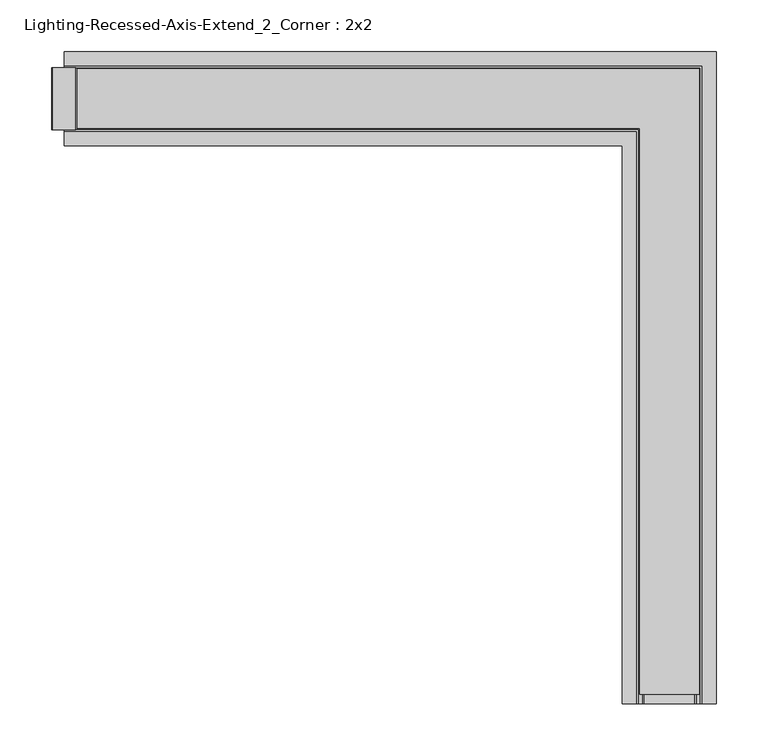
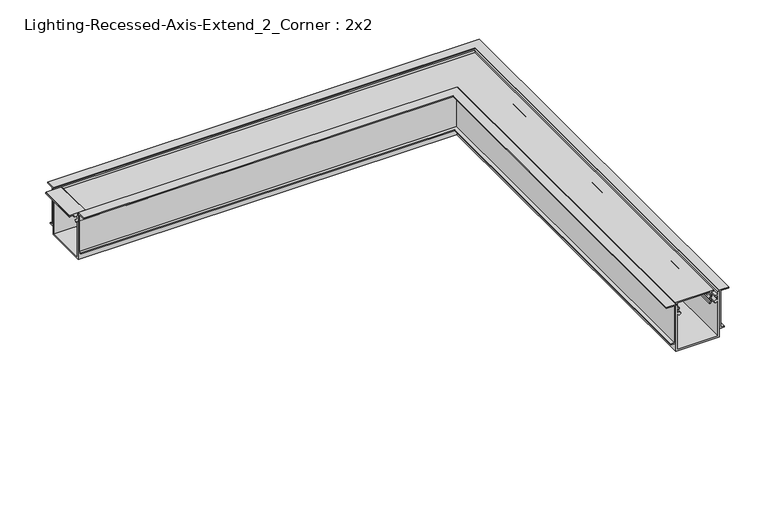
"""IFC4 building model written with IfcOpenShell, lengths in millimetres: light fixture geometry, Lighting-Recessed-Axis-Extend_2_Corner : 2x2."""

from ifc_helpers import new_model, si_unit, frame, origin, place, context, project, spatial, polyline, circle_curve, ellipse_curve, outline, extrude, faceted_brep, source, transform, mapped, element, save
from ifc_brep_helpers import plane_surface, cylinder_surface, revolved_surface, advanced_brep


def lighting_recessed_axis_extend_2_corner_2x2_85d7920b(model_context):
    return source(origin(), model_context, "Body", "SolidModel", [
        extrude(outline(polyline([(-1.1017139, -301.8536), (0.0, -302.7781437), (0.0, -325.1352563), (-1.1017139, -326.0598), (-2.57175, -326.0598), (-2.57175, -325.26605), (-1.778, -325.26605), (-1.778, -318.7954), (-4.5842019, -318.7954), (-4.5842019, -309.118), (-1.778, -309.118), (-1.778, -302.64735), (-2.57175, -302.64735), (-2.57175, -301.8536), (-1.1017139, -301.8536)])), frame((0.0, -29.972, 0.0), z_axis=(0.0, 1.0, 0.0), x_axis=(0.0, 0.0, 1.0)), (0.0, 0.0, 1.0), 59.944),
        advanced_brep(
        [(-304.8, -24.1727262, -4.8895009), (-304.8, -24.5114181, -11.3521263), (-304.8, -25.3818814, -17.9580097), (-304.8, -24.5665956, -19.4557425), (-304.8, -23.2119066, -20.6551445), (-304.8, -24.192808, -21.9831631), (-304.8, -25.7659952, -20.5903092), (-304.8, -27.1108807, -16.75974), (-304.8, -25.4753941, -12.7205342), (-304.8, -26.1394859, -10.8713211), (-304.8, -25.825992, -4.8895009), (-304.8, -28.829, -4.8895009), (-304.8, -28.829, -2.9845), (-304.8, 28.829, -2.9845), (-304.8, 28.829, -4.8895009), (-304.8, 25.825992, -4.8895009), (-304.8, 26.1394859, -10.8713211), (-304.8, 25.4753941, -12.7205342), (-304.8, 27.1108807, -16.75974), (-304.8, 25.7659952, -20.5903092), (-304.8, 24.192808, -21.9831631), (-304.8, 23.2119066, -20.6551445), (-304.8, 24.5665956, -19.4557425), (-304.8, 25.3818814, -17.9580097), (-304.8, 24.5114181, -11.3521263), (-304.8, 24.1727262, -4.8895009), (248.6232738, -577.596, -4.8895009), (296.9687262, -577.596, -4.8895009), (297.3074181, -577.596, -11.3521263), (298.1778814, -577.596, -17.9580097), (297.3625956, -577.596, -19.4557425), (296.0079066, -577.596, -20.6551445), (296.988808, -577.596, -21.9831631), (298.5619952, -577.596, -20.5903092), (299.9068807, -577.596, -16.75974), (298.2713941, -577.596, -12.7205342), (298.9354859, -577.596, -10.8713211), (298.621992, -577.596, -4.8895009), (301.625, -577.596, -4.8895009), (301.625, -577.596, -2.9845), (243.967, -577.596, -2.9845), (243.967, -577.596, -4.8895009), (246.970008, -577.596, -4.8895009), (246.6565141, -577.596, -10.8713211), (247.3206059, -577.596, -12.7205342), (245.6851193, -577.596, -16.75974), (247.0300048, -577.596, -20.5903092), (248.603192, -577.596, -21.9831631), (249.5840934, -577.596, -20.6551445), (248.2294044, -577.596, -19.4557425), (247.4141186, -577.596, -17.9580097), (248.2845819, -577.596, -11.3521263), (248.6232738, -24.1727262, -4.8895009), (248.2845819, -24.5114181, -11.3521263), (247.4141186, -25.3818814, -17.9580097), (248.2294044, -24.5665956, -19.4557425), (249.5840934, -23.2119066, -20.6551445), (248.603192, -24.192808, -21.9831631), (247.0300048, -25.7659952, -20.5903092), (245.6851193, -27.1108807, -16.75974), (247.3206059, -25.4753941, -12.7205342), (246.6565141, -26.1394859, -10.8713211), (246.970008, -25.825992, -4.8895009), (243.967, -28.829, -4.8895009), (243.967, -28.829, -2.9845), (301.625, 28.829, -2.9845), (301.625, 28.829, -4.8895009), (298.621992, 25.825992, -4.8895009), (298.9354859, 26.1394859, -10.8713211), (298.2713941, 25.4753941, -12.7205342), (299.9068807, 27.1108807, -16.75974), (298.5619952, 25.7659952, -20.5903092), (296.988808, 24.192808, -21.9831631), (296.0079066, 23.2119066, -20.6551445), (297.3625956, 24.5665956, -19.4557425), (298.1778814, 25.3818814, -17.9580097), (297.3074181, 24.5114181, -11.3521263), (296.9687262, 24.1727262, -4.8895009)],
        [
            (0, 1),
            (1, 2, circle_curve(frame((-304.8, -27.2542, -14.351), z_axis=(-1.0, 0.0, 0.0), x_axis=(0.0, 0.6748971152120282, 0.7379118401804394)), 4.064)),
            (2, 3, circle_curve(frame((-304.8, -22.149344, -17.1691543), z_axis=(1.0, 0.0, 0.0), x_axis=(0.0, -0.971490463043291, -0.23707863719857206)), 3.3274001)),
            (3, 4, circle_curve(frame((-304.8, -17.1303177, -12.4214292), z_axis=(1.0, 0.0, 0.0), x_axis=(0.0, -0.7264901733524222, -0.6871768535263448)), 10.2362001)),
            (4, 5, circle_curve(frame((-304.8, -23.7023573, -21.3191538), z_axis=(-1.0, 0.0, 0.0), x_axis=(0.0, 0.5941256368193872, 0.8043722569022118)), 0.8255)),
            (5, 6, circle_curve(frame((-304.8, -17.1303169, -12.4214283), z_axis=(-1.0, 0.0, 0.0), x_axis=(0.0, -0.5941256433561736, -0.8043722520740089)), 11.8872013)),
            (6, 7, circle_curve(frame((-304.8, -22.149344, -17.1691543), z_axis=(-1.0, 0.0, 0.0), x_axis=(0.0, -0.726468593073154, -0.6871996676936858)), 4.9784001)),
            (7, 8, circle_curve(frame((-304.8, -27.2542, -14.351), z_axis=(1.0, 0.0, 0.0), x_axis=(0.0, 0.05939464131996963, -0.9982345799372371)), 2.413)),
            (8, 9, circle_curve(frame((-304.8, -23.6029669, -11.0042544), z_axis=(-1.0, 0.0, 0.0), x_axis=(0.0, -0.7371760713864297, -0.675700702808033)), 2.54)),
            (9, 10),
            (10, 11),
            (11, 12),
            (12, 13),
            (13, 14),
            (14, 15),
            (15, 16),
            (16, 17, circle_curve(frame((-304.8, 23.6029669, -11.0042544), z_axis=(-1.0, 0.0, 0.0), x_axis=(0.0, 0.9986295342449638, 0.05233596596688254)), 2.54)),
            (17, 18, circle_curve(frame((-304.8, 27.2542, -14.351), z_axis=(1.0, 0.0, 0.0), x_axis=(0.0, -0.7371760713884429, 0.6757007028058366)), 2.413)),
            (18, 19, circle_curve(frame((-304.8, 22.149344, -17.1691543), z_axis=(-1.0, 0.0, 0.0), x_axis=(0.0, 0.996612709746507, 0.08223811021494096)), 4.9784001)),
            (19, 20, circle_curve(frame((-304.8, 17.1303169, -12.4214283), z_axis=(-1.0, 0.0, 0.0), x_axis=(0.0, 0.72646858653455, -0.6871996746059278)), 11.8872013)),
            (20, 21, circle_curve(frame((-304.8, 23.7023573, -21.3191538), z_axis=(-1.0, 0.0, 0.0), x_axis=(0.0, 0.594125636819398, -0.8043722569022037)), 0.8255)),
            (21, 22, circle_curve(frame((-304.8, 17.1303177, -12.4214292), z_axis=(1.0, 0.0, 0.0), x_axis=(0.0, 0.5941256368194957, -0.8043722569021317)), 10.2362001)),
            (22, 23, circle_curve(frame((-304.8, 22.149344, -17.1691543), z_axis=(1.0, 0.0, 0.0), x_axis=(0.0, 0.7265349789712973, -0.6871294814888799)), 3.3274001)),
            (23, 24, circle_curve(frame((-304.8, 27.2542, -14.351), z_axis=(-1.0, 0.0, 0.0), x_axis=(0.0, -0.46070831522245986, -0.8875516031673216)), 4.064)),
            (24, 25),
            (25, 0),
            (26, 27),
            (27, 28),
            (28, 29, circle_curve(frame((300.0502, -577.596, -14.351), z_axis=(0.0, -1.0, 0.0), x_axis=(-0.46070831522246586, 0.0, -0.8875516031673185)), 4.064)),
            (29, 30, circle_curve(frame((294.945344, -577.596, -17.1691543), z_axis=(0.0, 1.0, 0.0), x_axis=(0.7265349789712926, 0.0, -0.6871294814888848)), 3.3274001)),
            (30, 31, circle_curve(frame((289.9263177, -577.596, -12.4214292), z_axis=(0.0, 1.0, 0.0), x_axis=(0.5941256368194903, 0.0, -0.8043722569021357)), 10.2362001)),
            (31, 32, circle_curve(frame((296.4983573, -577.596, -21.3191538), z_axis=(0.0, -1.0, 0.0), x_axis=(0.5941256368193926, 0.0, -0.8043722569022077)), 0.8255)),
            (32, 33, circle_curve(frame((289.9263169, -577.596, -12.4214283), z_axis=(0.0, -1.0, 0.0), x_axis=(0.7264685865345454, 0.0, -0.6871996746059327)), 11.8872013)),
            (33, 34, circle_curve(frame((294.945344, -577.596, -17.1691543), z_axis=(0.0, -1.0, 0.0), x_axis=(0.9966127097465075, 0.0, 0.0822381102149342)), 4.9784001)),
            (34, 35, circle_curve(frame((300.0502, -577.596, -14.351), z_axis=(0.0, 1.0, 0.0), x_axis=(-0.7371760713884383, 0.0, 0.6757007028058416)), 2.413)),
            (35, 36, circle_curve(frame((296.3989669, -577.596, -11.0042544), z_axis=(0.0, -1.0, 0.0), x_axis=(0.9986295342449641, 0.0, 0.052335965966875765)), 2.54)),
            (36, 37),
            (37, 38),
            (38, 39),
            (39, 40),
            (40, 41),
            (41, 42),
            (42, 43),
            (43, 44, circle_curve(frame((249.1930331, -577.596, -11.0042544), z_axis=(0.0, -1.0, 0.0), x_axis=(-0.7371760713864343, 0.0, -0.675700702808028)), 2.54)),
            (44, 45, circle_curve(frame((245.5418, -577.596, -14.351), z_axis=(0.0, 1.0, 0.0), x_axis=(0.05939464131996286, 0.0, -0.9982345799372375)), 2.413)),
            (45, 46, circle_curve(frame((250.646656, -577.596, -17.1691543), z_axis=(0.0, -1.0, 0.0), x_axis=(-0.7264685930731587, 0.0, -0.6871996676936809)), 4.9784001)),
            (46, 47, circle_curve(frame((255.6656831, -577.596, -12.4214283), z_axis=(0.0, -1.0, 0.0), x_axis=(-0.594125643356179, 0.0, -0.8043722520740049)), 11.8872013)),
            (47, 48, circle_curve(frame((249.0936427, -577.596, -21.3191538), z_axis=(0.0, -1.0, 0.0), x_axis=(0.5941256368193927, 0.0, 0.8043722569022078)), 0.8255)),
            (48, 49, circle_curve(frame((255.6656823, -577.596, -12.4214292), z_axis=(0.0, 1.0, 0.0), x_axis=(-0.7264901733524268, 0.0, -0.68717685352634)), 10.2362001)),
            (49, 50, circle_curve(frame((250.646656, -577.596, -17.1691543), z_axis=(0.0, 1.0, 0.0), x_axis=(-0.9714904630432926, 0.0, -0.23707863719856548)), 3.3274001)),
            (50, 51, circle_curve(frame((245.5418, -577.596, -14.351), z_axis=(0.0, -1.0, 0.0), x_axis=(0.6748971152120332, 0.0, 0.7379118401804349)), 4.064)),
            (51, 26),
            (0, 52),
            (52, 53),
            (53, 1),
            (53, 54, ellipse_curve(frame((245.5418, -27.2542, -14.351), z_axis=(-0.7071067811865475, 0.7071067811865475, 0.0), x_axis=(-0.7071067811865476, -0.7071067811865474, 0.0)), 5.7473639, 4.064)),
            (54, 2),
            (54, 55, ellipse_curve(frame((250.646656, -22.149344, -17.1691543), z_axis=(0.7071067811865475, -0.7071067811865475, 0.0), x_axis=(0.7071067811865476, 0.7071067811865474, 0.0)), 4.7056543, 3.3274001)),
            (55, 3),
            (55, 56, ellipse_curve(frame((255.6656823, -17.1303177, -12.4214292), z_axis=(0.7071067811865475, -0.7071067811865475, 0.0), x_axis=(0.7071067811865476, 0.7071067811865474, 0.0)), 14.476173, 10.2362001)),
            (56, 4),
            (56, 57, ellipse_curve(frame((249.0936427, -23.7023573, -21.3191538), z_axis=(-0.7071067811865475, 0.7071067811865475, 0.0), x_axis=(-0.7071067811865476, -0.7071067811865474, 0.0)), 1.1674333, 0.8255)),
            (57, 5),
            (57, 58, ellipse_curve(frame((255.6656831, -17.1303169, -12.4214283), z_axis=(-0.7071067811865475, 0.7071067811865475, 0.0), x_axis=(-0.7071067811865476, -0.7071067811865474, 0.0)), 16.8110412, 11.8872013)),
            (58, 6),
            (58, 59, ellipse_curve(frame((250.646656, -22.149344, -17.1691543), z_axis=(-0.7071067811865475, 0.7071067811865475, 0.0), x_axis=(-0.7071067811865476, -0.7071067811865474, 0.0)), 7.0405209, 4.9784001)),
            (59, 7),
            (59, 60, ellipse_curve(frame((245.5418, -27.2542, -14.351), z_axis=(0.7071067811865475, -0.7071067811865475, 0.0), x_axis=(0.7071067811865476, 0.7071067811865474, 0.0)), 3.4124973, 2.413)),
            (60, 8),
            (60, 61, ellipse_curve(frame((249.1930331, -23.6029669, -11.0042544), z_axis=(-0.7071067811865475, 0.7071067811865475, 0.0), x_axis=(-0.7071067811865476, -0.7071067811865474, 0.0)), 3.5921024, 2.54)),
            (61, 9),
            (61, 62),
            (62, 10),
            (62, 42),
            (41, 63),
            (63, 11),
            (63, 64),
            (64, 12),
            (64, 40),
            (39, 65),
            (65, 13),
            (65, 66),
            (66, 14),
            (66, 38),
            (37, 67),
            (67, 15),
            (67, 68),
            (68, 16),
            (68, 69, ellipse_curve(frame((296.3989669, 23.6029669, -11.0042544), z_axis=(-0.7071067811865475, 0.7071067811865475, 0.0), x_axis=(-0.7071067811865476, -0.7071067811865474, 0.0)), 3.5921024, 2.54)),
            (69, 17),
            (69, 70, ellipse_curve(frame((300.0502, 27.2542, -14.351), z_axis=(0.7071067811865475, -0.7071067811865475, 0.0), x_axis=(0.7071067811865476, 0.7071067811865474, 0.0)), 3.4124973, 2.413)),
            (70, 18),
            (70, 71, ellipse_curve(frame((294.945344, 22.149344, -17.1691543), z_axis=(-0.7071067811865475, 0.7071067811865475, 0.0), x_axis=(-0.7071067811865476, -0.7071067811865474, 0.0)), 7.0405209, 4.9784001)),
            (71, 19),
            (71, 72, ellipse_curve(frame((289.9263169, 17.1303169, -12.4214283), z_axis=(-0.7071067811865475, 0.7071067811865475, 0.0), x_axis=(-0.7071067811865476, -0.7071067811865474, 0.0)), 16.8110412, 11.8872013)),
            (72, 20),
            (72, 73, ellipse_curve(frame((296.4983573, 23.7023573, -21.3191538), z_axis=(-0.7071067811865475, 0.7071067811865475, 0.0), x_axis=(-0.7071067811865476, -0.7071067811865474, 0.0)), 1.1674333, 0.8255)),
            (73, 21),
            (73, 74, ellipse_curve(frame((289.9263177, 17.1303177, -12.4214292), z_axis=(0.7071067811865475, -0.7071067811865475, 0.0), x_axis=(0.7071067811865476, 0.7071067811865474, 0.0)), 14.476173, 10.2362001)),
            (74, 22),
            (74, 75, ellipse_curve(frame((294.945344, 22.149344, -17.1691543), z_axis=(0.7071067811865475, -0.7071067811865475, 0.0), x_axis=(0.7071067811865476, 0.7071067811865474, 0.0)), 4.7056543, 3.3274001)),
            (75, 23),
            (75, 76, ellipse_curve(frame((300.0502, 27.2542, -14.351), z_axis=(-0.7071067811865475, 0.7071067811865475, 0.0), x_axis=(-0.7071067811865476, -0.7071067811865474, 0.0)), 5.7473639, 4.064)),
            (76, 24),
            (76, 77),
            (77, 25),
            (77, 27),
            (26, 52),
            (51, 53),
            (50, 54),
            (49, 55),
            (48, 56),
            (47, 57),
            (46, 58),
            (45, 59),
            (44, 60),
            (43, 61),
            (36, 68),
            (35, 69),
            (34, 70),
            (33, 71),
            (32, 72),
            (31, 73),
            (30, 74),
            (29, 75),
            (28, 76),
        ],
        [
            plane_surface(frame((-304.8, 0.0, -71.4375), z_axis=(-1.0, 0.0, 0.0), x_axis=(0.0, 0.0, 1.0))),
            plane_surface(frame((272.796, -577.596, -71.4375), z_axis=(0.0, -1.0, 0.0), x_axis=(0.0, 0.0, 1.0))),
            plane_surface(frame((-304.8, -24.1727262, -4.8895009), z_axis=(0.0, 0.9986295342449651, -0.05233596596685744), x_axis=(1.0, 0.0, 0.0))),
            cylinder_surface(frame((-304.8, -27.2542, -14.351), z_axis=(-1.0, 0.0, 0.0), x_axis=(0.0, 0.6748971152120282, 0.7379118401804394)), 4.064),
            revolved_surface(polyline([(253.97405606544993, -25.381881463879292, -17.958009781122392), (-304.8, -25.381881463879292, -17.958009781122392)]), (-304.8, -22.149344, -17.1691543), (1.0000000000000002, 0.0, 0.0)),
            revolved_surface(polyline([(265.9018823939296, -24.56681648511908, -19.455508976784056), (-304.8, -24.56681648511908, -19.455508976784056)]), (-304.8, -17.1303177, -12.4214292), (1.0, 0.0, 0.0)),
            cylinder_surface(frame((-304.8, -23.7023573, -21.3191538), z_axis=(-1.0000000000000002, 0.0, 0.0), x_axis=(0.0, 0.5941256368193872, 0.8043722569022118)), 0.8255),
            cylinder_surface(frame((-304.8, -17.1303169, -12.4214283), z_axis=(-1.0, 0.0, 0.0), x_axis=(0.0, -0.5941256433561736, -0.8043722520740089)), 11.8872013),
            cylinder_surface(frame((-304.8, -22.149344, -17.1691543), z_axis=(-1.0, 0.0, 0.0), x_axis=(0.0, -0.726468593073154, -0.6871996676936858)), 4.9784001),
            revolved_surface(polyline([(247.95479998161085, -27.110880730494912, -16.759740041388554), (-304.8, -27.110880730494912, -16.759740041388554)]), (-304.8, -27.2542, -14.351), (1.0, 0.0, 0.0)),
            cylinder_surface(frame((-304.8, -23.6029669, -11.0042544), z_axis=(-1.0000000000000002, 0.0, 0.0), x_axis=(0.0, -0.7371760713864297, -0.675700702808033)), 2.54),
            plane_surface(frame((-304.8, -26.1394859, -10.8713211), z_axis=(0.0, -0.9986295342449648, 0.05233596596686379), x_axis=(1.0, 0.0, 0.0))),
            plane_surface(frame((-304.8, -25.825992, -4.8895009), z_axis=(0.0, 0.0, -1.0), x_axis=(1.0, 0.0, 0.0))),
            plane_surface(frame((-304.8, -28.829, -4.8895009), z_axis=(0.0, -1.0, 0.0), x_axis=(1.0, 0.0, 0.0))),
            plane_surface(frame((-304.8, -28.829, -2.9845), z_axis=(0.0, 0.0, 1.0), x_axis=(1.0, 0.0, 0.0))),
            plane_surface(frame((-304.8, 28.829, -2.9845), z_axis=(0.0, 1.0, 0.0), x_axis=(1.0, 0.0, 0.0))),
            plane_surface(frame((-304.8, 28.829, -4.8895009), z_axis=(0.0, 0.0, -1.0), x_axis=(1.0, 0.0, 0.0))),
            plane_surface(frame((-304.8, 25.825992, -4.8895009), z_axis=(0.0, 0.9986295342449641, 0.05233596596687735), x_axis=(1.0, 0.0, 0.0))),
            cylinder_surface(frame((-304.8, 23.6029669, -11.0042544), z_axis=(-1.0, 0.0, 0.0), x_axis=(0.0, 0.9986295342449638, 0.05233596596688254)), 2.54),
            revolved_surface(polyline([(302.4631999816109, 25.475394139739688, -12.720534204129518), (-304.8, 25.475394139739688, -12.720534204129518)]), (-304.8, 27.2542, -14.351), (1.0, 0.0, 0.0)),
            cylinder_surface(frame((-304.8, 22.149344, -17.1691543), z_axis=(-1.0000000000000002, 0.0, 0.0), x_axis=(0.0, 0.996612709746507, 0.08223811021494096)), 4.9784001),
            cylinder_surface(frame((-304.8, 17.1303169, -12.4214283), z_axis=(-1.0, 0.0, 0.0), x_axis=(0.0, 0.72646858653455, -0.6871996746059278)), 11.8872013),
            cylinder_surface(frame((-304.8, 23.7023573, -21.3191538), z_axis=(-1.0, 0.0, 0.0), x_axis=(0.0, 0.594125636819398, -0.8043722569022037)), 0.8255),
            revolved_surface(polyline([(300.1625177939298, 23.211906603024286, -20.655144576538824), (-304.8, 23.211906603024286, -20.655144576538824)]), (-304.8, 17.1303177, -12.4214292), (1.0000000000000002, 0.0, 0.0)),
            revolved_surface(polyline([(298.2727440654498, 24.566816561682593, -19.455509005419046), (-304.8, 24.566816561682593, -19.455509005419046)]), (-304.8, 22.149344, -17.1691543), (1.0000000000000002, 0.0, 0.0)),
            cylinder_surface(frame((-304.8, 27.2542, -14.351), z_axis=(-1.0000000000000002, 0.0, 0.0), x_axis=(0.0, -0.46070831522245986, -0.8875516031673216)), 4.064),
            plane_surface(frame((-304.8, 24.5114181, -11.3521263), z_axis=(0.0, -0.9986295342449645, -0.052335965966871), x_axis=(1.0, 0.0, 0.0))),
            plane_surface(frame((-304.8, 24.1727262, -4.8895009), z_axis=(0.0, 0.0, -1.0), x_axis=(1.0, 0.0, 0.0))),
            plane_surface(frame((248.6232738, -24.1727262, -4.8895009), z_axis=(0.9986295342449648, 0.0, -0.05233596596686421), x_axis=(0.0, -1.0, 0.0))),
            cylinder_surface(frame((245.5418, 0.0, -14.351), z_axis=(0.0, 1.0, 0.0), x_axis=(0.6748971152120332, 0.0, 0.7379118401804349)), 4.064),
            revolved_surface(polyline([(247.4141185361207, -577.596, -17.95800978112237), (247.4141185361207, -18.821943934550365, -17.95800978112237)]), (250.646656, 0.0, -17.1691543), (0.0, -1.0, 0.0)),
            revolved_surface(polyline([(248.22918351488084, -577.596, -19.455508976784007), (248.22918351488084, -6.894117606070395, -19.455508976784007)]), (255.6656823, 0.0, -12.4214292), (0.0, -1.0, 0.0)),
            cylinder_surface(frame((249.0936427, 0.0, -21.3191538), z_axis=(0.0, 1.0000000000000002, 0.0), x_axis=(0.5941256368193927, 0.0, 0.8043722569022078)), 0.8255),
            cylinder_surface(frame((255.6656831, 0.0, -12.4214283), z_axis=(0.0, 1.0, 0.0), x_axis=(-0.594125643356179, 0.0, -0.8043722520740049)), 11.8872013),
            cylinder_surface(frame((250.646656, 0.0, -17.1691543), z_axis=(0.0, 1.0, 0.0), x_axis=(-0.7264685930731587, 0.0, -0.6871996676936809)), 4.9784001),
            revolved_surface(polyline([(245.68511926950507, -577.596, -16.759740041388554), (245.68511926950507, -24.841200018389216, -16.759740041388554)]), (245.5418, 0.0, -14.351), (0.0, -1.0, 0.0)),
            cylinder_surface(frame((249.1930331, 0.0, -11.0042544), z_axis=(0.0, 1.0, 0.0), x_axis=(-0.7371760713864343, 0.0, -0.675700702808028)), 2.54),
            plane_surface(frame((246.6565141, -26.1394859, -10.8713211), z_axis=(-0.9986295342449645, 0.0, 0.05233596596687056), x_axis=(0.0, -1.0, 0.0))),
            plane_surface(frame((243.967, -28.829, -4.8895009), z_axis=(-1.0, 0.0, 0.0), x_axis=(0.0, -1.0, 0.0))),
            plane_surface(frame((301.625, 28.829, -2.9845), z_axis=(1.0, 0.0, 0.0), x_axis=(0.0, -1.0, 0.0))),
            plane_surface(frame((298.621992, 25.825992, -4.8895009), z_axis=(0.9986295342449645, 0.0, 0.052335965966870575), x_axis=(0.0, -1.0, 0.0))),
            cylinder_surface(frame((296.3989669, 0.0, -11.0042544), z_axis=(0.0, 1.0, 0.0), x_axis=(0.9986295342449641, 0.0, 0.052335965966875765)), 2.54),
            revolved_surface(polyline([(298.2713941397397, -577.5960000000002, -12.720534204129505), (298.2713941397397, 29.6671999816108, -12.720534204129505)]), (300.0502, 0.0, -14.351), (0.0, -1.0000000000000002, 0.0)),
            cylinder_surface(frame((294.945344, 0.0, -17.1691543), z_axis=(0.0, 1.0000000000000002, 0.0), x_axis=(0.9966127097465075, 0.0, 0.0822381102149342)), 4.9784001),
            cylinder_surface(frame((289.9263169, 0.0, -12.4214283), z_axis=(0.0, 1.0, 0.0), x_axis=(0.7264685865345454, 0.0, -0.6871996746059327)), 11.8872013),
            cylinder_surface(frame((296.4983573, 0.0, -21.3191538), z_axis=(0.0, 1.0, 0.0), x_axis=(0.5941256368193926, 0.0, -0.8043722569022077)), 0.8255),
            revolved_surface(polyline([(296.00790660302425, -577.596, -20.655144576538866), (296.00790660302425, 27.366517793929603, -20.655144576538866)]), (289.9263177, 0.0, -12.4214292), (0.0, -1.0, 0.0)),
            revolved_surface(polyline([(297.36281656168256, -577.5960000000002, -19.455509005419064), (297.36281656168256, 25.476744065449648, -19.455509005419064)]), (294.945344, 0.0, -17.1691543), (0.0, -1.0000000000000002, 0.0)),
            cylinder_surface(frame((300.0502, 0.0, -14.351), z_axis=(0.0, 1.0000000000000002, 0.0), x_axis=(-0.46070831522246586, 0.0, -0.8875516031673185)), 4.064),
            plane_surface(frame((297.3074181, 24.5114181, -11.3521263), z_axis=(-0.9986295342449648, 0.0, -0.052335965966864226), x_axis=(0.0, -1.0, 0.0))),
        ],
        [
            (0, [[1, 2, 3, 4, 5, 6, 7, 8, 9, 10, 11, 12, 13, 14, 15, 16, 17, 18, 19, 20, 21, 22, 23, 24, 25, 26]]),
            (1, [[27, 28, 29, 30, 31, 32, 33, 34, 35, 36, 37, 38, 39, 40, 41, 42, 43, 44, 45, 46, 47, 48, 49, 50, 51, 52]]),
            (2, [[-1, 53, 54, 55]]),
            (3, [[-2, -55, 56, 57]]),
            (4, [[-3, -57, 58, 59]]),
            (5, [[-4, -59, 60, 61]]),
            (6, [[-5, -61, 62, 63]]),
            (7, [[-6, -63, 64, 65]]),
            (8, [[-7, -65, 66, 67]]),
            (9, [[-8, -67, 68, 69]]),
            (10, [[-9, -69, 70, 71]]),
            (11, [[-10, -71, 72, 73]]),
            (12, [[-11, -73, 74, -42, 75, 76]]),
            (13, [[-12, -76, 77, 78]]),
            (14, [[-13, -78, 79, -40, 80, 81]]),
            (15, [[-14, -81, 82, 83]]),
            (16, [[-15, -83, 84, -38, 85, 86]]),
            (17, [[-16, -86, 87, 88]]),
            (18, [[-17, -88, 89, 90]]),
            (19, [[-18, -90, 91, 92]]),
            (20, [[-19, -92, 93, 94]]),
            (21, [[-20, -94, 95, 96]]),
            (22, [[-21, -96, 97, 98]]),
            (23, [[-22, -98, 99, 100]]),
            (24, [[-23, -100, 101, 102]]),
            (25, [[-24, -102, 103, 104]]),
            (26, [[-25, -104, 105, 106]]),
            (27, [[-26, -106, 107, -27, 108, -53]]),
            (28, [[-54, -108, -52, 109]]),
            (29, [[-56, -109, -51, 110]]),
            (30, [[-58, -110, -50, 111]]),
            (31, [[-60, -111, -49, 112]]),
            (32, [[-62, -112, -48, 113]]),
            (33, [[-64, -113, -47, 114]]),
            (34, [[-66, -114, -46, 115]]),
            (35, [[-68, -115, -45, 116]]),
            (36, [[-70, -116, -44, 117]]),
            (37, [[-72, -117, -43, -74]]),
            (38, [[-77, -75, -41, -79]]),
            (39, [[-82, -80, -39, -84]]),
            (40, [[-87, -85, -37, 118]]),
            (41, [[-89, -118, -36, 119]]),
            (42, [[-91, -119, -35, 120]]),
            (43, [[-93, -120, -34, 121]]),
            (44, [[-95, -121, -33, 122]]),
            (45, [[-97, -122, -32, 123]]),
            (46, [[-99, -123, -31, 124]]),
            (47, [[-101, -124, -30, 125]]),
            (48, [[-103, -125, -29, 126]]),
            (49, [[-105, -126, -28, -107]]),
        ],
    ),
        advanced_brep(
        [(-313.9567, -29.972, -14.9098), (-313.9567, -29.972, -69.4055), (-313.9567, 29.972, -69.4055), (-313.9567, 29.972, -14.9098), (-313.9567, 28.1325797, -14.9098), (-313.9567, 25.8730546, -16.2143374), (-313.9567, 24.6896516, -13.9591318), (-313.9567, 28.067, -11.1252), (-313.9567, 28.067, -12.8778), (-313.9567, 29.972, -12.8778), (-313.9567, 29.972, -6.35), (-313.9567, 28.067, -6.35), (-313.9567, 28.067, -7.874), (-313.9567, 26.416, -7.7874748), (-313.9567, 26.416, -5.08), (-313.9567, 29.972, -5.08), (-313.9567, 29.972, 0.0), (-313.9567, 32.004, 0.0), (-313.9567, 32.004, -71.4375), (-313.9567, -32.004, -71.4375), (-313.9567, -32.004, 0.0), (-313.9567, -29.972, 0.0), (-313.9567, -29.972, -5.08), (-313.9567, -26.416, -5.08), (-313.9567, -26.416, -7.7874748), (-313.9567, -28.067, -7.874), (-313.9567, -28.067, -6.35), (-313.9567, -29.972, -6.35), (-313.9567, -29.972, -12.8778), (-313.9567, -28.067, -12.8778), (-313.9567, -28.067, -11.1252), (-313.9567, -24.6896516, -13.9591318), (-313.9567, -25.8730546, -16.2143374), (-313.9567, -28.1325797, -14.9098), (242.824, -586.7527, -14.9098), (244.6634203, -586.7527, -14.9098), (246.9229454, -586.7527, -16.2143374), (248.1063484, -586.7527, -13.9591318), (244.729, -586.7527, -11.1252), (244.729, -586.7527, -12.8778), (242.824, -586.7527, -12.8778), (242.824, -586.7527, -6.35), (244.729, -586.7527, -6.35), (244.729, -586.7527, -7.874), (246.38, -586.7527, -7.7874748), (246.38, -586.7527, -5.08), (242.824, -586.7527, -5.08), (242.824, -586.7527, 0.0), (240.792, -586.7527, 0.0), (240.792, -586.7527, -71.4375), (304.8, -586.7527, -71.4375), (304.8, -586.7527, 0.0), (302.768, -586.7527, 0.0), (302.768, -586.7527, -5.08), (299.212, -586.7527, -5.08), (299.212, -586.7527, -7.7874748), (300.863, -586.7527, -7.874), (300.863, -586.7527, -6.35), (302.768, -586.7527, -6.35), (302.768, -586.7527, -12.8778), (300.863, -586.7527, -12.8778), (300.863, -586.7527, -11.1252), (297.4856516, -586.7527, -13.9591318), (298.6690546, -586.7527, -16.2143374), (300.9285797, -586.7527, -14.9098), (302.768, -586.7527, -14.9098), (302.768, -586.7527, -69.4055), (242.824, -586.7527, -69.4055), (242.824, -29.972, -14.9098), (242.824, -29.972, -69.4055), (302.768, 29.972, -69.4055), (302.768, 29.972, -14.9098), (300.9285797, 28.1325797, -14.9098), (298.6690546, 25.8730546, -16.2143374), (297.4856516, 24.6896516, -13.9591318), (300.863, 28.067, -11.1252), (300.863, 28.067, -12.8778), (302.768, 29.972, -12.8778), (302.768, 29.972, -6.35), (300.863, 28.067, -6.35), (300.863, 28.067, -7.874), (299.212, 26.416, -7.7874748), (299.212, 26.416, -5.08), (302.768, 29.972, -5.08), (302.768, 29.972, 0.0), (304.8, 32.004, 0.0), (304.8, 32.004, -71.4375), (240.792, -32.004, -71.4375), (240.792, -32.004, 0.0), (242.824, -29.972, 0.0), (242.824, -29.972, -5.08), (246.38, -26.416, -5.08), (246.38, -26.416, -7.7874748), (244.729, -28.067, -7.874), (244.729, -28.067, -6.35), (242.824, -29.972, -6.35), (242.824, -29.972, -12.8778), (244.729, -28.067, -12.8778), (244.729, -28.067, -11.1252), (248.1063484, -24.6896516, -13.9591318), (246.9229454, -25.8730546, -16.2143374), (244.6634203, -28.1325797, -14.9098)],
        [
            (0, 1),
            (1, 2),
            (2, 3),
            (3, 4),
            (4, 5, circle_curve(frame((-313.9567, 26.6262297, -14.9098), z_axis=(-1.0, 0.0, 0.0), x_axis=(0.0, -0.499999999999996, -0.866025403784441)), 1.5063501)),
            (5, 6, circle_curve(frame((-313.9567, 27.0642121, -14.1511921), z_axis=(-1.0, 0.0, 0.0), x_axis=(0.0, -0.9967449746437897, 0.08061920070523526)), 2.382315)),
            (6, 7),
            (7, 8),
            (8, 9),
            (9, 10),
            (10, 11),
            (11, 12),
            (12, 13),
            (13, 14),
            (14, 15),
            (15, 16),
            (16, 17),
            (17, 18),
            (18, 19),
            (19, 20),
            (20, 21),
            (21, 22),
            (22, 23),
            (23, 24),
            (24, 25),
            (25, 26),
            (26, 27),
            (27, 28),
            (28, 29),
            (29, 30),
            (30, 31),
            (31, 32, circle_curve(frame((-313.9567, -27.0642121, -14.1511921), z_axis=(-1.0, 0.0, 0.0), x_axis=(0.0, 0.5000000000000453, -0.8660254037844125)), 2.382315)),
            (32, 33, circle_curve(frame((-313.9567, -26.6262297, -14.9098), z_axis=(-1.0, 0.0, 0.0), x_axis=(0.0, -1.0, 0.0)), 1.5063501)),
            (33, 0),
            (34, 35),
            (35, 36, circle_curve(frame((246.1697703, -586.7527, -14.9098), z_axis=(0.0, -1.0, 0.0), x_axis=(-1.0, 0.0, 0.0)), 1.5063501)),
            (36, 37, circle_curve(frame((245.7317879, -586.7527, -14.1511921), z_axis=(0.0, -1.0, 0.0), x_axis=(0.5000000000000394, 0.0, -0.866025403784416)), 2.382315)),
            (37, 38),
            (38, 39),
            (39, 40),
            (40, 41),
            (41, 42),
            (42, 43),
            (43, 44),
            (44, 45),
            (45, 46),
            (46, 47),
            (47, 48),
            (48, 49),
            (49, 50),
            (50, 51),
            (51, 52),
            (52, 53),
            (53, 54),
            (54, 55),
            (55, 56),
            (56, 57),
            (57, 58),
            (58, 59),
            (59, 60),
            (60, 61),
            (61, 62),
            (62, 63, circle_curve(frame((299.8602121, -586.7527, -14.1511921), z_axis=(0.0, -1.0, 0.0), x_axis=(-0.9967449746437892, 0.0, 0.08061920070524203)), 2.382315)),
            (63, 64, circle_curve(frame((299.4222297, -586.7527, -14.9098), z_axis=(0.0, -1.0, 0.0), x_axis=(-0.5000000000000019, 0.0, -0.8660254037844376)), 1.5063501)),
            (64, 65),
            (65, 66),
            (66, 67),
            (67, 34),
            (0, 68),
            (68, 69),
            (69, 1),
            (69, 67),
            (66, 70),
            (70, 2),
            (70, 71),
            (71, 3),
            (71, 65),
            (64, 72),
            (72, 4),
            (72, 73, ellipse_curve(frame((299.4222297, 26.6262297, -14.9098), z_axis=(-0.7071067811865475, 0.7071067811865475, 0.0), x_axis=(-0.7071067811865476, -0.7071067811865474, 0.0)), 2.1303007, 1.5063501)),
            (73, 5),
            (73, 74, ellipse_curve(frame((299.8602121, 27.0642121, -14.1511921), z_axis=(-0.7071067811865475, 0.7071067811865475, 0.0), x_axis=(-0.7071067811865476, -0.7071067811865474, 0.0)), 3.3691022, 2.382315)),
            (74, 6),
            (74, 75),
            (75, 7),
            (75, 76),
            (76, 8),
            (76, 60),
            (59, 77),
            (77, 9),
            (77, 78),
            (78, 10),
            (78, 58),
            (57, 79),
            (79, 11),
            (79, 80),
            (80, 12),
            (80, 81),
            (81, 13),
            (81, 82),
            (82, 14),
            (82, 54),
            (53, 83),
            (83, 15),
            (83, 84),
            (84, 16),
            (84, 52),
            (51, 85),
            (85, 17),
            (85, 86),
            (86, 18),
            (86, 50),
            (49, 87),
            (87, 19),
            (87, 88),
            (88, 20),
            (88, 48),
            (47, 89),
            (89, 21),
            (89, 90),
            (90, 22),
            (90, 46),
            (45, 91),
            (91, 23),
            (91, 92),
            (92, 24),
            (92, 93),
            (93, 25),
            (93, 94),
            (94, 26),
            (94, 42),
            (41, 95),
            (95, 27),
            (95, 96),
            (96, 28),
            (96, 40),
            (39, 97),
            (97, 29),
            (97, 98),
            (98, 30),
            (98, 99),
            (99, 31),
            (99, 100, ellipse_curve(frame((245.7317879, -27.0642121, -14.1511921), z_axis=(-0.7071067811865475, 0.7071067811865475, 0.0), x_axis=(-0.7071067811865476, -0.7071067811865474, 0.0)), 3.3691022, 2.382315)),
            (100, 32),
            (100, 101, ellipse_curve(frame((246.1697703, -26.6262297, -14.9098), z_axis=(-0.7071067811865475, 0.7071067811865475, 0.0), x_axis=(-0.7071067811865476, -0.7071067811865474, 0.0)), 2.1303007, 1.5063501)),
            (101, 33),
            (101, 35),
            (34, 68),
            (63, 73),
            (62, 74),
            (61, 75),
            (56, 80),
            (55, 81),
            (44, 92),
            (43, 93),
            (38, 98),
            (37, 99),
            (36, 100),
        ],
        [
            plane_surface(frame((-313.9567, 0.0, -71.4375), z_axis=(-1.0, 0.0, 0.0), x_axis=(0.0, 0.0, 1.0))),
            plane_surface(frame((272.796, -586.7527, -71.4375), z_axis=(0.0, -1.0, 0.0), x_axis=(0.0, 0.0, 1.0))),
            plane_surface(frame((-313.9567, -29.972, -14.9098), z_axis=(0.0, 1.0, 0.0), x_axis=(1.0, 0.0, 0.0))),
            plane_surface(frame((-313.9567, -29.972, -69.4055), z_axis=(0.0, 0.0, 1.0), x_axis=(1.0, 0.0, 0.0))),
            plane_surface(frame((-313.9567, 29.972, -69.4055), z_axis=(0.0, -1.0, 0.0), x_axis=(1.0, 0.0, 0.0))),
            plane_surface(frame((-313.9567, 29.972, -14.9098), z_axis=(0.0, 0.0, -1.0), x_axis=(1.0, 0.0, 0.0))),
            cylinder_surface(frame((-313.9567, 26.6262297, -14.9098), z_axis=(-1.0, 0.0, 0.0), x_axis=(0.0, -0.499999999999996, -0.866025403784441)), 1.5063501),
            cylinder_surface(frame((-313.9567, 27.0642121, -14.1511921), z_axis=(-1.0, 0.0, 0.0), x_axis=(0.0, -0.9967449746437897, 0.08061920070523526)), 2.382315),
            plane_surface(frame((-313.9567, 24.6896516, -13.9591318), z_axis=(0.0, -0.6427876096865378, 0.7660444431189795), x_axis=(1.0, 0.0, 0.0))),
            plane_surface(frame((-313.9567, 28.067, -11.1252), z_axis=(0.0, 1.0, 0.0), x_axis=(1.0, 0.0, 0.0))),
            plane_surface(frame((-313.9567, 28.067, -12.8778), z_axis=(0.0, 0.0, 1.0), x_axis=(1.0, 0.0, 0.0))),
            plane_surface(frame((-313.9567, 29.972, -12.8778), z_axis=(0.0, -1.0, 0.0), x_axis=(1.0, 0.0, 0.0))),
            plane_surface(frame((-313.9567, 29.972, -6.35), z_axis=(0.0, 0.0, -1.0), x_axis=(1.0, 0.0, 0.0))),
            plane_surface(frame((-313.9567, 28.067, -6.35), z_axis=(0.0, 1.0, 0.0), x_axis=(1.0, 0.0, 0.0))),
            plane_surface(frame((-313.9567, 28.067, -7.874), z_axis=(0.0, -0.052335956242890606, -0.9986295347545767), x_axis=(1.0, 0.0, 0.0))),
            plane_surface(frame((-313.9567, 26.416, -7.7874748), z_axis=(0.0, -1.0, 0.0), x_axis=(1.0, 0.0, 0.0))),
            plane_surface(frame((-313.9567, 26.416, -5.08), z_axis=(0.0, 0.0, 1.0), x_axis=(1.0, 0.0, 0.0))),
            plane_surface(frame((-313.9567, 29.972, -5.08), z_axis=(0.0, -1.0, 0.0), x_axis=(1.0, 0.0, 0.0))),
            plane_surface(frame((-313.9567, 29.972, 0.0), z_axis=(0.0, 0.0, 1.0), x_axis=(1.0, 0.0, 0.0))),
            plane_surface(frame((-313.9567, 32.004, 0.0), z_axis=(0.0, 1.0, 0.0), x_axis=(1.0, 0.0, 0.0))),
            plane_surface(frame((-313.9567, 32.004, -71.4375), z_axis=(0.0, 0.0, -1.0), x_axis=(1.0, 0.0, 0.0))),
            plane_surface(frame((-313.9567, -32.004, -71.4375), z_axis=(0.0, -1.0, 0.0), x_axis=(1.0, 0.0, 0.0))),
            plane_surface(frame((-313.9567, -32.004, 0.0), z_axis=(0.0, 0.0, 1.0), x_axis=(1.0, 0.0, 0.0))),
            plane_surface(frame((-313.9567, -29.972, 0.0), z_axis=(0.0, 1.0, 0.0), x_axis=(1.0, 0.0, 0.0))),
            plane_surface(frame((-313.9567, -29.972, -5.08), z_axis=(0.0, 0.0, 1.0), x_axis=(1.0, 0.0, 0.0))),
            plane_surface(frame((-313.9567, -26.416, -5.08), z_axis=(0.0, 1.0, 0.0), x_axis=(1.0, 0.0, 0.0))),
            plane_surface(frame((-313.9567, -26.416, -7.7874748), z_axis=(0.0, 0.052335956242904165, -0.998629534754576), x_axis=(1.0, 0.0, 0.0))),
            plane_surface(frame((-313.9567, -28.067, -7.874), z_axis=(0.0, -1.0, 0.0), x_axis=(1.0, 0.0, 0.0))),
            plane_surface(frame((-313.9567, -28.067, -6.35), z_axis=(0.0, 0.0, -1.0), x_axis=(1.0, 0.0, 0.0))),
            plane_surface(frame((-313.9567, -29.972, -6.35), z_axis=(0.0, 1.0, 0.0), x_axis=(1.0, 0.0, 0.0))),
            plane_surface(frame((-313.9567, -29.972, -12.8778), z_axis=(0.0, 0.0, 1.0), x_axis=(1.0, 0.0, 0.0))),
            plane_surface(frame((-313.9567, -28.067, -12.8778), z_axis=(0.0, -1.0, 0.0), x_axis=(1.0, 0.0, 0.0))),
            plane_surface(frame((-313.9567, -28.067, -11.1252), z_axis=(0.0, 0.6427876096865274, 0.7660444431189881), x_axis=(1.0, 0.0, 0.0))),
            cylinder_surface(frame((-313.9567, -27.0642121, -14.1511921), z_axis=(-1.0, 0.0, 0.0), x_axis=(0.0, 0.5000000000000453, -0.8660254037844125)), 2.382315),
            cylinder_surface(frame((-313.9567, -26.6262297, -14.9098), z_axis=(-1.0, 0.0, 0.0), x_axis=(0.0, -1.0, 0.0)), 1.5063501),
            plane_surface(frame((-313.9567, -28.1325797, -14.9098), z_axis=(0.0, 0.0, -1.0), x_axis=(1.0, 0.0, 0.0))),
            plane_surface(frame((242.824, -29.972, -14.9098), z_axis=(1.0, 0.0, 0.0), x_axis=(0.0, -1.0, 0.0))),
            plane_surface(frame((302.768, 29.972, -69.4055), z_axis=(-1.0, 0.0, 0.0), x_axis=(0.0, -1.0, 0.0))),
            cylinder_surface(frame((299.4222297, 0.0, -14.9098), z_axis=(0.0, 1.0, 0.0), x_axis=(-0.5000000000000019, 0.0, -0.8660254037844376)), 1.5063501),
            cylinder_surface(frame((299.8602121, 0.0, -14.1511921), z_axis=(0.0, 1.0000000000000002, 0.0), x_axis=(-0.9967449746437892, 0.0, 0.08061920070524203)), 2.382315),
            plane_surface(frame((297.4856516, 24.6896516, -13.9591318), z_axis=(-0.6427876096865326, 0.0, 0.7660444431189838), x_axis=(0.0, -1.0, 0.0))),
            plane_surface(frame((300.863, 28.067, -11.1252), z_axis=(1.0, 0.0, 0.0), x_axis=(0.0, -1.0, 0.0))),
            plane_surface(frame((302.768, 29.972, -12.8778), z_axis=(-1.0, 0.0, 0.0), x_axis=(0.0, -1.0, 0.0))),
            plane_surface(frame((300.863, 28.067, -6.35), z_axis=(1.0, 0.0, 0.0), x_axis=(0.0, -1.0, 0.0))),
            plane_surface(frame((300.863, 28.067, -7.874), z_axis=(-0.052335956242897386, 0.0, -0.9986295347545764), x_axis=(0.0, -1.0, 0.0))),
            plane_surface(frame((299.212, 26.416, -7.7874748), z_axis=(-1.0, 0.0, 0.0), x_axis=(0.0, -1.0, 0.0))),
            plane_surface(frame((302.768, 29.972, -5.08), z_axis=(-1.0, 0.0, 0.0), x_axis=(0.0, -1.0, 0.0))),
            plane_surface(frame((304.8, 32.004, 0.0), z_axis=(1.0, 0.0, 0.0), x_axis=(0.0, -1.0, 0.0))),
            plane_surface(frame((240.792, -32.004, -71.4375), z_axis=(-1.0, 0.0, 0.0), x_axis=(0.0, -1.0, 0.0))),
            plane_surface(frame((242.824, -29.972, 0.0), z_axis=(1.0, 0.0, 0.0), x_axis=(0.0, -1.0, 0.0))),
            plane_surface(frame((246.38, -26.416, -5.08), z_axis=(1.0, 0.0, 0.0), x_axis=(0.0, -1.0, 0.0))),
            plane_surface(frame((246.38, -26.416, -7.7874748), z_axis=(0.052335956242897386, 0.0, -0.9986295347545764), x_axis=(0.0, -1.0, 0.0))),
            plane_surface(frame((244.729, -28.067, -7.874), z_axis=(-1.0, 0.0, 0.0), x_axis=(0.0, -1.0, 0.0))),
            plane_surface(frame((242.824, -29.972, -6.35), z_axis=(1.0, 0.0, 0.0), x_axis=(0.0, -1.0, 0.0))),
            plane_surface(frame((244.729, -28.067, -12.8778), z_axis=(-1.0, 0.0, 0.0), x_axis=(0.0, -1.0, 0.0))),
            plane_surface(frame((244.729, -28.067, -11.1252), z_axis=(0.6427876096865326, 0.0, 0.7660444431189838), x_axis=(0.0, -1.0, 0.0))),
            cylinder_surface(frame((245.7317879, 0.0, -14.1511921), z_axis=(0.0, 1.0, 0.0), x_axis=(0.5000000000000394, 0.0, -0.866025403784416)), 2.382315),
            cylinder_surface(frame((246.1697703, 0.0, -14.9098), z_axis=(0.0, 1.0, 0.0), x_axis=(-1.0, 0.0, 0.0)), 1.5063501),
        ],
        [
            (0, [[1, 2, 3, 4, 5, 6, 7, 8, 9, 10, 11, 12, 13, 14, 15, 16, 17, 18, 19, 20, 21, 22, 23, 24, 25, 26, 27, 28, 29, 30, 31, 32, 33, 34]]),
            (1, [[35, 36, 37, 38, 39, 40, 41, 42, 43, 44, 45, 46, 47, 48, 49, 50, 51, 52, 53, 54, 55, 56, 57, 58, 59, 60, 61, 62, 63, 64, 65, 66, 67, 68]]),
            (2, [[-1, 69, 70, 71]]),
            (3, [[-2, -71, 72, -67, 73, 74]]),
            (4, [[-3, -74, 75, 76]]),
            (5, [[-4, -76, 77, -65, 78, 79]]),
            (6, [[-5, -79, 80, 81]]),
            (7, [[-6, -81, 82, 83]]),
            (8, [[-7, -83, 84, 85]]),
            (9, [[-8, -85, 86, 87]]),
            (10, [[-9, -87, 88, -60, 89, 90]]),
            (11, [[-10, -90, 91, 92]]),
            (12, [[-11, -92, 93, -58, 94, 95]]),
            (13, [[-12, -95, 96, 97]]),
            (14, [[-13, -97, 98, 99]]),
            (15, [[-14, -99, 100, 101]]),
            (16, [[-15, -101, 102, -54, 103, 104]]),
            (17, [[-16, -104, 105, 106]]),
            (18, [[-17, -106, 107, -52, 108, 109]]),
            (19, [[-18, -109, 110, 111]]),
            (20, [[-19, -111, 112, -50, 113, 114]]),
            (21, [[-20, -114, 115, 116]]),
            (22, [[-21, -116, 117, -48, 118, 119]]),
            (23, [[-22, -119, 120, 121]]),
            (24, [[-23, -121, 122, -46, 123, 124]]),
            (25, [[-24, -124, 125, 126]]),
            (26, [[-25, -126, 127, 128]]),
            (27, [[-26, -128, 129, 130]]),
            (28, [[-27, -130, 131, -42, 132, 133]]),
            (29, [[-28, -133, 134, 135]]),
            (30, [[-29, -135, 136, -40, 137, 138]]),
            (31, [[-30, -138, 139, 140]]),
            (32, [[-31, -140, 141, 142]]),
            (33, [[-32, -142, 143, 144]]),
            (34, [[-33, -144, 145, 146]]),
            (35, [[-34, -146, 147, -35, 148, -69]]),
            (36, [[-70, -148, -68, -72]]),
            (37, [[-75, -73, -66, -77]]),
            (38, [[-80, -78, -64, 149]]),
            (39, [[-82, -149, -63, 150]]),
            (40, [[-84, -150, -62, 151]]),
            (41, [[-86, -151, -61, -88]]),
            (42, [[-91, -89, -59, -93]]),
            (43, [[-96, -94, -57, 152]]),
            (44, [[-98, -152, -56, 153]]),
            (45, [[-100, -153, -55, -102]]),
            (46, [[-105, -103, -53, -107]]),
            (47, [[-110, -108, -51, -112]]),
            (48, [[-115, -113, -49, -117]]),
            (49, [[-120, -118, -47, -122]]),
            (50, [[-125, -123, -45, 154]]),
            (51, [[-127, -154, -44, 155]]),
            (52, [[-129, -155, -43, -131]]),
            (53, [[-134, -132, -41, -136]]),
            (54, [[-139, -137, -39, 156]]),
            (55, [[-141, -156, -38, 157]]),
            (56, [[-143, -157, -37, 158]]),
            (57, [[-145, -158, -36, -147]]),
        ],
    ),
        faceted_brep([(-313.9567, 32.004, 1.651), (-313.9567, 45.593, 1.651), (-313.9567, 45.593, 0.0), (-313.9567, 34.29, 0.0), (-313.9567, 34.29, -57.023), (-313.9567, 38.954552, -57.023), (-313.9567, 38.954552, -58.674), (-313.9567, 32.004, -58.674), (304.8, 32.004, 1.651), (304.8, -586.7527, 1.651), (318.389, -586.7527, 1.651), (318.389, 45.593, 1.651), (318.389, 45.593, 0.0), (318.389, -586.7527, 0.0), (307.086, -586.7527, 0.0), (307.086, 34.29, 0.0), (307.086, 34.29, -57.023), (307.086, -586.7527, -57.023), (311.750552, -586.7527, -57.023), (311.750552, 38.954552, -57.023), (311.750552, 38.954552, -58.674), (311.750552, -586.7527, -58.674), (304.8, -586.7527, -58.674), (304.8, 32.004, -58.674)], [[[0, 1, 2, 3, 4, 5, 6, 7]], [[1, 0, 8, 9, 10, 11]], [[2, 1, 11, 12]], [[3, 2, 12, 13, 14, 15]], [[4, 3, 15, 16]], [[5, 4, 16, 17, 18, 19]], [[6, 5, 19, 20]], [[7, 6, 20, 21, 22, 23]], [[0, 7, 23, 8]], [[9, 22, 21, 18, 17, 14, 13, 10]], [[12, 11, 10, 13]], [[16, 15, 14, 17]], [[20, 19, 18, 21]], [[8, 23, 22, 9]]]),
        faceted_brep([(-313.9567, -32.004, 1.651), (-313.9567, -32.004, -58.674), (-313.9567, -38.954552, -58.674), (-313.9567, -38.954552, -57.023), (-313.9567, -34.29, -57.023), (-313.9567, -34.29, 0.0), (-313.9567, -45.593, 0.0), (-313.9567, -45.593, 1.651), (240.792, -32.004, 1.651), (240.792, -32.004, -58.674), (240.792, -586.7527, -58.674), (233.841448, -586.7527, -58.674), (233.841448, -38.954552, -58.674), (233.841448, -38.954552, -57.023), (233.841448, -586.7527, -57.023), (238.506, -586.7527, -57.023), (238.506, -34.29, -57.023), (238.506, -34.29, 0.0), (238.506, -586.7527, 0.0), (227.203, -586.7527, 0.0), (227.203, -45.593, 0.0), (227.203, -45.593, 1.651), (227.203, -586.7527, 1.651), (240.792, -586.7527, 1.651)], [[[0, 1, 2, 3, 4, 5, 6, 7]], [[1, 0, 8, 9]], [[2, 1, 9, 10, 11, 12]], [[3, 2, 12, 13]], [[4, 3, 13, 14, 15, 16]], [[5, 4, 16, 17]], [[6, 5, 17, 18, 19, 20]], [[7, 6, 20, 21]], [[0, 7, 21, 22, 23, 8]], [[23, 22, 19, 18, 15, 14, 11, 10]], [[9, 8, 23, 10]], [[13, 12, 11, 14]], [[17, 16, 15, 18]], [[21, 20, 19, 22]]]),
    ])


if __name__ == "__main__":
    model = new_model("IFC4")
    model_context = context("Model", 3, world=origin())
    ifc_project = project(units=[si_unit("LENGTHUNIT", "METRE", prefix="MILLI")], contexts=[model_context])
    site = spatial("IfcSite", under=ifc_project)
    building = spatial("IfcBuilding", under=site)
    placement = place(None, origin())
    lighting_recessed_axis_extend_2_corner_2x2_shape = lighting_recessed_axis_extend_2_corner_2x2_85d7920b(model_context)
    element("IfcLightFixture", 1, ObjectType="Lighting-Recessed-Axis-Extend_2_Corner : 2x2", at=placement, inside=building, context=model_context, shape_type="MappedRepresentation", body=[
        mapped(lighting_recessed_axis_extend_2_corner_2x2_shape, transform((0.0, 0.0, 0.0), x_axis=(1.0, 0.0, 0.0), y_axis=(0.0, 1.0, 0.0), z_axis=(0.0, 0.0, 1.0))),
    ])
    save(model, "model.ifc")
